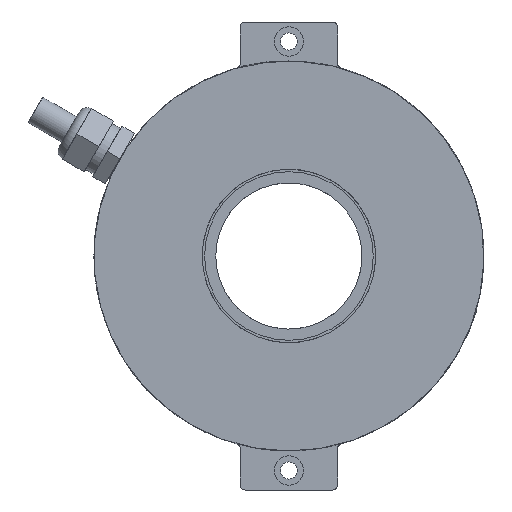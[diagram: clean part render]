
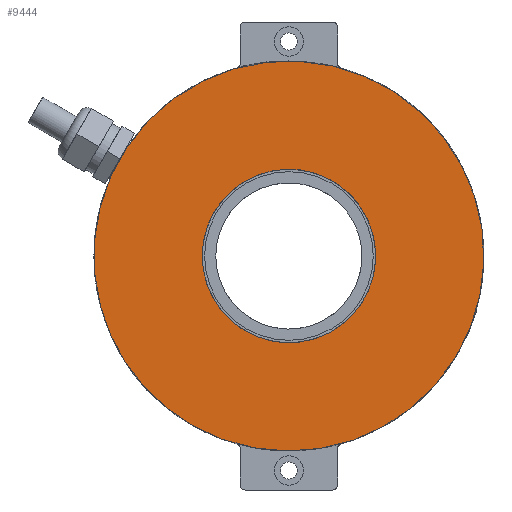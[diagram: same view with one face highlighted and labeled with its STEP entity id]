
A CAD part, left-side view. The second image highlights one B-rep face of the part: STEP entity #9444.
In plain terms, the highlighted planar face has unit normal (-1, 0, 0) as drawn and (1, 0, 0) by its records, which use the part's own axes.
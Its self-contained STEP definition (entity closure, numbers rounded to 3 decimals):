
#9444=ADVANCED_FACE('',(#17135,#17137),#17139,.F.);
#17135=FACE_BOUND('',#17136,.T.);
#17136=EDGE_LOOP('',(#22159,#22160));
#17137=FACE_BOUND('',#17138,.T.);
#17138=EDGE_LOOP('',(#22161,#22162));
#17139=PLANE('',#17140);
#17140=AXIS2_PLACEMENT_3D('',#17141,#17142,#17143);
#17141=CARTESIAN_POINT('',(24.,40.,0.));
#17142=DIRECTION('',(-1.,0.,0.));
#17143=DIRECTION('',(0.,0.,1.));
#22159=ORIENTED_EDGE('',*,*,#24532,.F.);
#22160=ORIENTED_EDGE('',*,*,#24533,.F.);
#22161=ORIENTED_EDGE('',*,*,#24559,.T.);
#22162=ORIENTED_EDGE('',*,*,#24558,.T.);
#24532=EDGE_CURVE('',#27899,#27900,#27901,.T.);
#24533=EDGE_CURVE('',#27900,#27899,#27902,.T.);
#24558=EDGE_CURVE('',#27951,#27952,#27953,.T.);
#24559=EDGE_CURVE('',#27952,#27951,#27954,.T.);
#27899=VERTEX_POINT('',#37878);
#27900=VERTEX_POINT('',#37879);
#27901=CIRCLE('',#37880,40.);
#27902=CIRCLE('',#37884,40.);
#27951=VERTEX_POINT('',#39588);
#27952=VERTEX_POINT('',#39589);
#27953=CIRCLE('',#39590,17.8);
#27954=CIRCLE('',#39594,17.8);
#37878=CARTESIAN_POINT('',(24.,28.284,28.284));
#37879=CARTESIAN_POINT('',(24.,0.,40.));
#37880=AXIS2_PLACEMENT_3D('',#37881,#37882,#37883);
#37881=CARTESIAN_POINT('',(24.,0.,0.));
#37882=DIRECTION('',(-1.,0.,0.));
#37883=DIRECTION('',(0.,0.707,0.707));
#37884=AXIS2_PLACEMENT_3D('',#37885,#37886,#37887);
#37885=CARTESIAN_POINT('',(24.,0.,0.));
#37886=DIRECTION('',(-1.,0.,0.));
#37887=DIRECTION('',(0.,0.,1.));
#39588=CARTESIAN_POINT('',(24.,-12.587,-12.587));
#39589=CARTESIAN_POINT('',(24.,17.8,0.));
#39590=AXIS2_PLACEMENT_3D('',#39591,#39592,#39593);
#39591=CARTESIAN_POINT('',(24.,0.,0.));
#39592=DIRECTION('',(-1.,0.,0.));
#39593=DIRECTION('',(0.,-0.707,-0.707));
#39594=AXIS2_PLACEMENT_3D('',#39595,#39596,#39597);
#39595=CARTESIAN_POINT('',(24.,0.,0.));
#39596=DIRECTION('',(-1.,0.,0.));
#39597=DIRECTION('',(0.,1.,0.));
